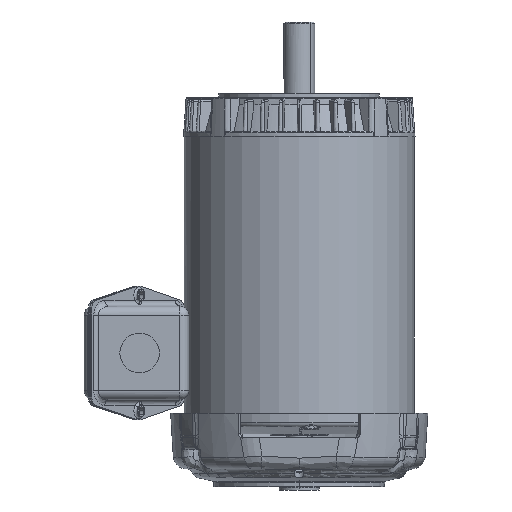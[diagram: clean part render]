
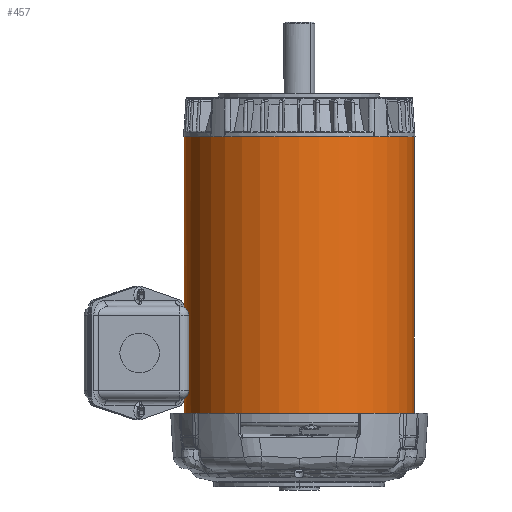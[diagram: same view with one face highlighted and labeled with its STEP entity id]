
A CAD part, front view. The second image highlights one B-rep face of the part: STEP entity #457.
In plain terms, the highlighted cylindrical face has radius 81.788 mm (diameter 163.576 mm), a partial arc.
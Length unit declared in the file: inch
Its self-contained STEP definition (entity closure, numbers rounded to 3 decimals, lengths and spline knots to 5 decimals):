
#17=CARTESIAN_POINT('',(0.,0.,-3.875));
#18=DIRECTION('',(0.,0.,1.));
#19=DIRECTION('',(-1.,0.,0.));
#20=AXIS2_PLACEMENT_3D('',#17,#18,#19);
#151=CARTESIAN_POINT('',(0.,0.,3.875));
#152=DIRECTION('',(0.,0.,1.));
#153=DIRECTION('',(-1.,0.,0.));
#154=AXIS2_PLACEMENT_3D('',#151,#152,#153);
#156=CARTESIAN_POINT('',(-3.22,0.,-2.6595));
#173=CARTESIAN_POINT('',(-3.22,0.,-1.9405));
#175=DIRECTION('',(0.,0.,1.));
#176=VECTOR('',#175,7.75);
#177=CARTESIAN_POINT('',(3.22,0.,-3.875));
#178=LINE('',#177,#176);
#207=CARTESIAN_POINT('',(-3.22,0.,-1.9405));
#208=CARTESIAN_POINT('',(-3.22,-0.02561,-1.9405));
#209=CARTESIAN_POINT('',(-3.2194,-0.07563,
-1.94584));
#210=CARTESIAN_POINT('',(-3.21683,-0.14847,
-1.9696));
#211=CARTESIAN_POINT('',(-3.21304,-0.21462,
-2.00828));
#212=CARTESIAN_POINT('',(-3.20873,-0.27082,
-2.05949));
#213=CARTESIAN_POINT('',(-3.20458,-0.31544,
-2.12204));
#214=CARTESIAN_POINT('',(-3.20142,-0.34566,
-2.19178));
#215=CARTESIAN_POINT('',(-3.19973,-0.36073,
-2.26746));
#216=CARTESIAN_POINT('',(-3.19986,-0.35958,
-2.34327));
#217=CARTESIAN_POINT('',(-3.20177,-0.34245,
-2.41778));
#218=CARTESIAN_POINT('',(-3.20503,-0.31092,
-2.48555));
#219=CARTESIAN_POINT('',(-3.20913,-0.26593,
-2.54571));
#220=CARTESIAN_POINT('',(-3.21332,-0.21019,
-2.59478));
#221=CARTESIAN_POINT('',(-3.21697,-0.14516,
-2.63173));
#222=CARTESIAN_POINT('',(-3.21943,-0.07387,
-2.65441));
#223=CARTESIAN_POINT('',(-3.22,-0.025,-2.6595));
#224=CARTESIAN_POINT('',(-3.22,0.,-2.6595));
#226=DIRECTION('',(0.,0.,1.));
#227=VECTOR('',#226,5.8155);
#228=CARTESIAN_POINT('',(-3.22,0.,-1.9405));
#229=LINE('',#228,#227);
#230=DIRECTION('',(0.,0.,1.));
#231=VECTOR('',#230,1.2155);
#232=CARTESIAN_POINT('',(-3.22,0.,-3.875));
#233=LINE('',#232,#231);
#234=CARTESIAN_POINT('',(-3.13847,-0.72,-3.1205));
#235=CARTESIAN_POINT('',(-3.14121,-0.70805,-3.1205));
#236=CARTESIAN_POINT('',(-3.14627,-0.6854,
-3.11684));
#237=CARTESIAN_POINT('',(-3.153,-0.65364,
-3.1007));
#238=CARTESIAN_POINT('',(-3.15801,-0.62891,
-3.0757));
#239=CARTESIAN_POINT('',(-3.1611,-0.61311,
-3.04453));
#240=CARTESIAN_POINT('',(-3.16213,-0.6077,
-3.0099));
#241=CARTESIAN_POINT('',(-3.1611,-0.61307,
-2.97561));
#242=CARTESIAN_POINT('',(-3.15799,-0.629,
-2.94417));
#243=CARTESIAN_POINT('',(-3.15302,-0.65359,
-2.91935));
#244=CARTESIAN_POINT('',(-3.14626,-0.68545,
-2.90313));
#245=CARTESIAN_POINT('',(-3.14121,-0.70807,-2.8995));
#246=CARTESIAN_POINT('',(-3.13847,-0.72,-2.8995));
#248=CARTESIAN_POINT('',(-3.13847,-0.72,-2.8995));
#249=CARTESIAN_POINT('',(-3.13572,-0.73199,-2.8995));
#250=CARTESIAN_POINT('',(-3.13038,-0.75468,
-2.90317));
#251=CARTESIAN_POINT('',(-3.1225,-0.78657,
-2.91943));
#252=CARTESIAN_POINT('',(-3.11615,-0.81127,
-2.94457));
#253=CARTESIAN_POINT('',(-3.11201,-0.82693,
-2.97568));
#254=CARTESIAN_POINT('',(-3.11058,-0.83227,
-3.01009));
#255=CARTESIAN_POINT('',(-3.112,-0.82698,
-3.04416));
#256=CARTESIAN_POINT('',(-3.11617,-0.8112,
-3.07555));
#257=CARTESIAN_POINT('',(-3.12248,-0.78666,
-3.10048));
#258=CARTESIAN_POINT('',(-3.13038,-0.75466,
-3.11685));
#259=CARTESIAN_POINT('',(-3.13572,-0.73198,-3.1205));
#260=CARTESIAN_POINT('',(-3.13847,-0.72,-3.1205));
#282=CARTESIAN_POINT('',(3.22,0.,-3.875));
#283=CARTESIAN_POINT('',(-3.22,0.,-3.875));
#284=VERTEX_POINT('',#282);
#285=VERTEX_POINT('',#283);
#290=CARTESIAN_POINT('',(3.22,0.,3.875));
#291=CARTESIAN_POINT('',(-3.22,0.,3.875));
#292=VERTEX_POINT('',#290);
#293=VERTEX_POINT('',#291);
#300=VERTEX_POINT('',#156);
#301=VERTEX_POINT('',#173);
#304=VERTEX_POINT('',#234);
#305=VERTEX_POINT('',#246);
#438=CARTESIAN_POINT('',(0.,0.,-3.875));
#439=DIRECTION('',(0.,0.,1.));
#440=DIRECTION('',(1.,0.,0.));
#441=AXIS2_PLACEMENT_3D('',#438,#439,#440);
#442=CYLINDRICAL_SURFACE('',#441,3.22);
#443=ORIENTED_EDGE('',*,*,#357,.F.);
#444=ORIENTED_EDGE('',*,*,#427,.T.);
#445=ORIENTED_EDGE('',*,*,#406,.T.);
#446=ORIENTED_EDGE('',*,*,#424,.F.);
#447=ORIENTED_EDGE('',*,*,#313,.F.);
#448=ORIENTED_EDGE('',*,*,#421,.T.);
#449=EDGE_LOOP('',(#443,#444,#445,#446,#447,#448));
#450=FACE_OUTER_BOUND('',#449,.F.);
#452=ORIENTED_EDGE('',*,*,#451,.F.);
#454=ORIENTED_EDGE('',*,*,#453,.F.);
#455=EDGE_LOOP('',(#452,#454));
#456=FACE_BOUND('',#455,.F.);
#457=ADVANCED_FACE('',(#450,#456),#442,.T.);
#21=CIRCLE('',#20,3.22);
#155=CIRCLE('',#154,3.22);
#225=B_SPLINE_CURVE_WITH_KNOTS('',3,(#207,#208,#209,#210,#211,#212,#213,#214,
#215,#216,#217,#218,#219,#220,#221,#222,#223,#224),.UNSPECIFIED.,.F.,.F.,(4,1,1,
1,1,1,1,1,1,1,1,1,1,1,1,4),(0.,0.06667,0.13333,0.2,
0.26667,0.33333,0.4,0.46667,0.53333,
0.6,0.66667,0.73333,0.8,0.86667,
0.93333,1.),.UNSPECIFIED.);
#247=B_SPLINE_CURVE_WITH_KNOTS('',3,(#234,#235,#236,#237,#238,#239,#240,#241,
#242,#243,#244,#245,#246),.UNSPECIFIED.,.F.,.F.,(4,1,1,1,1,1,1,1,1,1,4),(0.,
0.1,0.2,0.3,0.4,0.5,0.6,0.7,0.8,0.9,1.),.UNSPECIFIED.);
#261=B_SPLINE_CURVE_WITH_KNOTS('',3,(#248,#249,#250,#251,#252,#253,#254,#255,
#256,#257,#258,#259,#260),.UNSPECIFIED.,.F.,.F.,(4,1,1,1,1,1,1,1,1,1,4),(0.,
0.1,0.2,0.3,0.4,0.5,0.6,0.7,0.8,0.9,1.),.UNSPECIFIED.);
#313=EDGE_CURVE('',#285,#284,#21,.T.);
#357=EDGE_CURVE('',#301,#300,#225,.T.);
#406=EDGE_CURVE('',#293,#292,#155,.T.);
#421=EDGE_CURVE('',#285,#300,#233,.T.);
#424=EDGE_CURVE('',#284,#292,#178,.T.);
#427=EDGE_CURVE('',#301,#293,#229,.T.);
#451=EDGE_CURVE('',#304,#305,#247,.T.);
#453=EDGE_CURVE('',#305,#304,#261,.T.);
